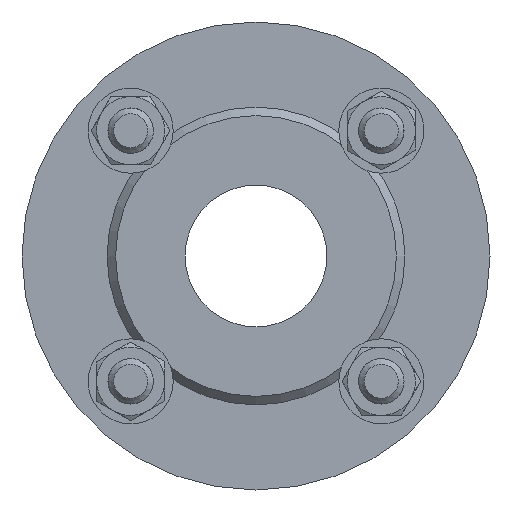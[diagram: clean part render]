
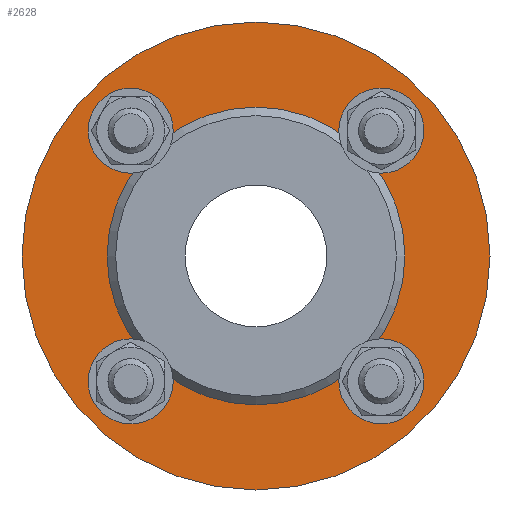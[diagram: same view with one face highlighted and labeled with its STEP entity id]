
A CAD part, left-side view. The second image highlights one B-rep face of the part: STEP entity #2628.
In plain terms, the highlighted planar face has unit normal (-1, 0, 0).
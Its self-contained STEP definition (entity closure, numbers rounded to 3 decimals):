
#294 = DIRECTION ( 'NONE',  ( -1., 0., 0. ) ) ;
#304 = FACE_BOUND ( 'NONE', #4902, .T. ) ;
#459 = ORIENTED_EDGE ( 'NONE', *, *, #13146, .F. ) ;
#478 = EDGE_LOOP ( 'NONE', ( #8192 ) ) ;
#1083 = ORIENTED_EDGE ( 'NONE', *, *, #12672, .F. ) ;
#1383 = CIRCLE ( 'NONE', #7243, 82.5 ) ;
#1512 = EDGE_CURVE ( 'NONE', #14603, #14603, #4310, .T. ) ;
#1678 = EDGE_CURVE ( 'NONE', #4301, #4301, #1383, .T. ) ;
#1973 = AXIS2_PLACEMENT_3D ( 'NONE', #10068, #14721, #12426 ) ;
#2343 = CARTESIAN_POINT ( 'NONE',  ( -58., 0., 0. ) ) ;
#2402 = DIRECTION ( 'NONE',  ( 0., 0., -1. ) ) ;
#2530 = FACE_BOUND ( 'NONE', #4397, .T. ) ;
#2628 = ADVANCED_FACE ( 'NONE', ( #4822, #12767, #304, #8258, #2530, #7182 ), #8404, .F. ) ;
#3077 = EDGE_CURVE ( 'NONE', #11547, #11547, #5796, .T. ) ;
#3488 = EDGE_LOOP ( 'NONE', ( #12467 ) ) ;
#3532 = CARTESIAN_POINT ( 'NONE',  ( -58., -44.194, -52.194 ) ) ;
#4003 = ORIENTED_EDGE ( 'NONE', *, *, #1512, .F. ) ;
#4067 = AXIS2_PLACEMENT_3D ( 'NONE', #5464, #8663, #6291 ) ;
#4301 = VERTEX_POINT ( 'NONE', #10179 ) ;
#4310 = CIRCLE ( 'NONE', #13088, 8. ) ;
#4397 = EDGE_LOOP ( 'NONE', ( #1083 ) ) ;
#4734 = CARTESIAN_POINT ( 'NONE',  ( -58., 44.194, 36.194 ) ) ;
#4743 = CARTESIAN_POINT ( 'NONE',  ( -58., 0., 82.5 ) ) ;
#4822 = FACE_BOUND ( 'NONE', #478, .T. ) ;
#4902 = EDGE_LOOP ( 'NONE', ( #4003 ) ) ;
#5377 = CIRCLE ( 'NONE', #1973, 52.5 ) ;
#5464 = CARTESIAN_POINT ( 'NONE',  ( -58., -44.194, -44.194 ) ) ;
#5576 = VERTEX_POINT ( 'NONE', #9940 ) ;
#5796 = CIRCLE ( 'NONE', #4067, 8. ) ;
#6291 = DIRECTION ( 'NONE',  ( 0., 0., -1. ) ) ;
#7182 = FACE_OUTER_BOUND ( 'NONE', #12778, .T. ) ;
#7243 = AXIS2_PLACEMENT_3D ( 'NONE', #2343, #13957, #11432 ) ;
#7244 = DIRECTION ( 'NONE',  ( 0., 0., -1. ) ) ;
#7335 = AXIS2_PLACEMENT_3D ( 'NONE', #13859, #14083, #2402 ) ;
#7823 = AXIS2_PLACEMENT_3D ( 'NONE', #13202, #294, #8323 ) ;
#8192 = ORIENTED_EDGE ( 'NONE', *, *, #3077, .F. ) ;
#8258 = FACE_BOUND ( 'NONE', #9097, .T. ) ;
#8323 = DIRECTION ( 'NONE',  ( 0., 0., -1. ) ) ;
#8404 = PLANE ( 'NONE',  #11934 ) ;
#8550 = CIRCLE ( 'NONE', #7823, 8. ) ;
#8663 = DIRECTION ( 'NONE',  ( -1., 0., 0. ) ) ;
#8806 = CARTESIAN_POINT ( 'NONE',  ( -58., 44.194, -52.194 ) ) ;
#9097 = EDGE_LOOP ( 'NONE', ( #459 ) ) ;
#9780 = CIRCLE ( 'NONE', #7335, 8. ) ;
#9940 = CARTESIAN_POINT ( 'NONE',  ( -58., -52.5, 0. ) ) ;
#10068 = CARTESIAN_POINT ( 'NONE',  ( -58., 0., 0. ) ) ;
#10179 = CARTESIAN_POINT ( 'NONE',  ( -58., -82.5, 0. ) ) ;
#11432 = DIRECTION ( 'NONE',  ( 0., -1., 0. ) ) ;
#11547 = VERTEX_POINT ( 'NONE', #3532 ) ;
#11619 = DIRECTION ( 'NONE',  ( 0., 1., 0. ) ) ;
#11755 = CARTESIAN_POINT ( 'NONE',  ( -58., 44.194, -44.194 ) ) ;
#11775 = DIRECTION ( 'NONE',  ( 1., 0., 0. ) ) ;
#11827 = DIRECTION ( 'NONE',  ( -1., 0., 0. ) ) ;
#11934 = AXIS2_PLACEMENT_3D ( 'NONE', #4743, #11775, #11619 ) ;
#12298 = CARTESIAN_POINT ( 'NONE',  ( -58., -44.194, 36.194 ) ) ;
#12426 = DIRECTION ( 'NONE',  ( 0., -1., 0. ) ) ;
#12467 = ORIENTED_EDGE ( 'NONE', *, *, #14686, .F. ) ;
#12672 = EDGE_CURVE ( 'NONE', #5576, #5576, #5377, .T. ) ;
#12767 = FACE_BOUND ( 'NONE', #3488, .T. ) ;
#12778 = EDGE_LOOP ( 'NONE', ( #14707 ) ) ;
#13088 = AXIS2_PLACEMENT_3D ( 'NONE', #11755, #11827, #7244 ) ;
#13146 = EDGE_CURVE ( 'NONE', #14589, #14589, #9780, .T. ) ;
#13202 = CARTESIAN_POINT ( 'NONE',  ( -58., 44.194, 44.194 ) ) ;
#13859 = CARTESIAN_POINT ( 'NONE',  ( -58., -44.194, 44.194 ) ) ;
#13957 = DIRECTION ( 'NONE',  ( -1., 0., 0. ) ) ;
#14083 = DIRECTION ( 'NONE',  ( -1., 0., 0. ) ) ;
#14589 = VERTEX_POINT ( 'NONE', #12298 ) ;
#14603 = VERTEX_POINT ( 'NONE', #8806 ) ;
#14686 = EDGE_CURVE ( 'NONE', #15117, #15117, #8550, .T. ) ;
#14707 = ORIENTED_EDGE ( 'NONE', *, *, #1678, .T. ) ;
#14721 = DIRECTION ( 'NONE',  ( -1., 0., 0. ) ) ;
#15117 = VERTEX_POINT ( 'NONE', #4734 ) ;
